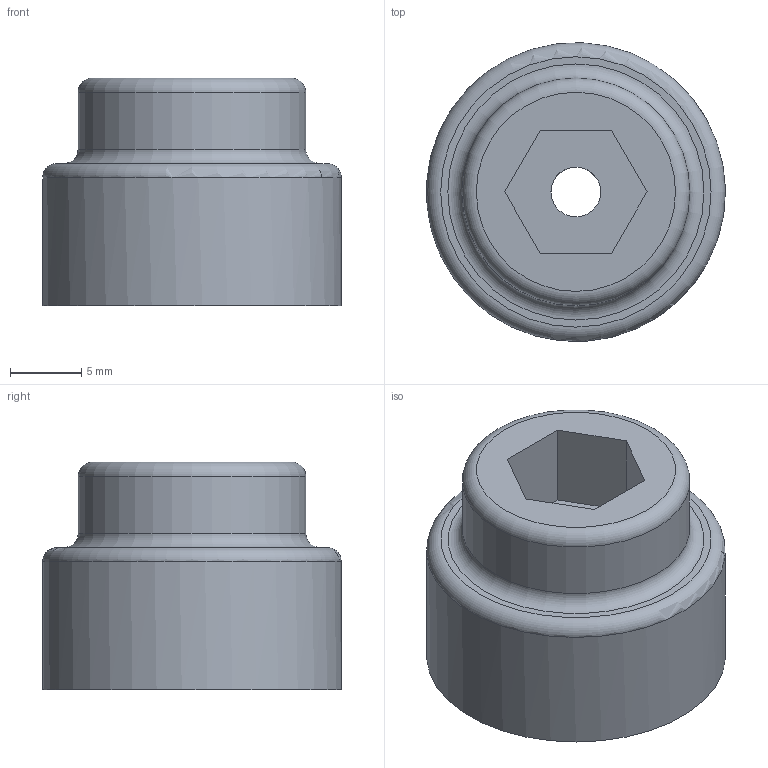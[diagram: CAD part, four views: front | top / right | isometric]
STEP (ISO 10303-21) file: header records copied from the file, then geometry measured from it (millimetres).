
FILE_DESCRIPTION( ( '' ), ' ' );
FILE_NAME( '/vol/tmp/translate-3367393862921501540/5b317f633f476d1102fc80f6.step', '2018-06-25T23:48:52', ( '' ), ( '' ), ' ', ' ', ' ' );
FILE_SCHEMA( ( 'AUTOMOTIVE_DESIGN { 1 0 10303 214 1 1 1 1 }' ) );
Length unit declared in the file: metre
Products named in the file (1): Torque damper output
Bounding box: 20.99 x 20.98 x 16 mm (x, y, z)
Volume: 3415.3 mm3; surface area: 2597.6 mm2
Topology: 1 solids, 1 shells, 32 faces, 74 edges, 47 vertices
Faces by surface type: plane 15, cylinder 10, torus 7
Full cylindrical faces by diameter (mm): 3.5 x1, 13.5 x1, 16 x1, 21 x1
Entity records: 1155 total; most frequent: CARTESIAN_POINT 180, DIRECTION 151, ORIENTED_EDGE 130, EDGE_CURVE 65, AXIS2_PLACEMENT_3D 60, VERTEX_POINT 45, EDGE_LOOP 44, FACE_OUTER_BOUND 39
